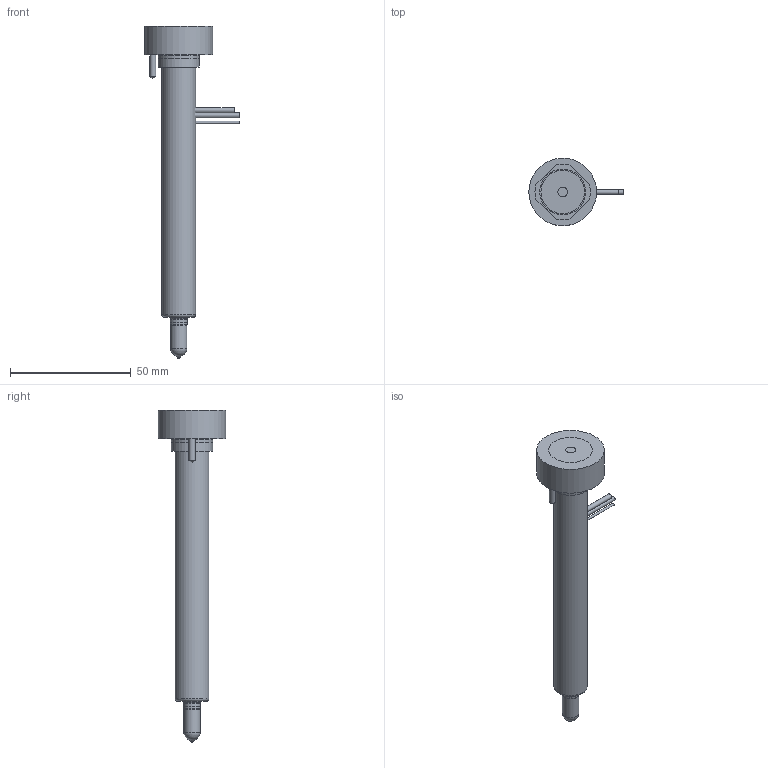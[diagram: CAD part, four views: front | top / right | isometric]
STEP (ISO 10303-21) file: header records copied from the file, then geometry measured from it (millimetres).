
FILE_DESCRIPTION(/* description */ (''),/* implementation_level */ '2;1');
FILE_NAME(/* name */ 'MJTT09115-10_200C_a',/* time_stamp */ '2008-11-14T17:46:06+13:00',/* author */ (''),/* organization */ (''),/* preprocessor_version */ 'ST-DEVELOPER v9',/* originating_system */ 'UGS - NX 4.0',/* authorisation */ '');
FILE_SCHEMA (('CONFIG_CONTROL_DESIGN'));
Length unit declared in the file: millimetre
Products named in the file (1): Matt5FEBawsc
Bounding box: 39 x 28 x 137.43 mm (x, y, z)
Volume: 43889.9 mm3; surface area: 14093.8 mm2
Topology: 2 solids, 2 shells, 90 faces, 207 edges, 133 vertices
Faces by surface type: plane 36, cylinder 33, cone 11, torus 9, sphere 1
Full cylindrical faces by diameter (mm): 0.7 x1, 1 x1, 2 x2, 2.5 x2, 3.6 x1, 4 x1, 5.2 x1, 6.61 x1, 6.8 x1, 7.01 x2, 8 x1, 13 x1, 13.002 x1, 14 x1, 17 x2, 28 x1
Entity records: 2560 total; most frequent: CARTESIAN_POINT 637, DIRECTION 402, ORIENTED_EDGE 308, AXIS2_PLACEMENT_3D 176, EDGE_CURVE 154, EDGE_LOOP 142, VERTEX_POINT 121, ADVANCED_FACE 90
